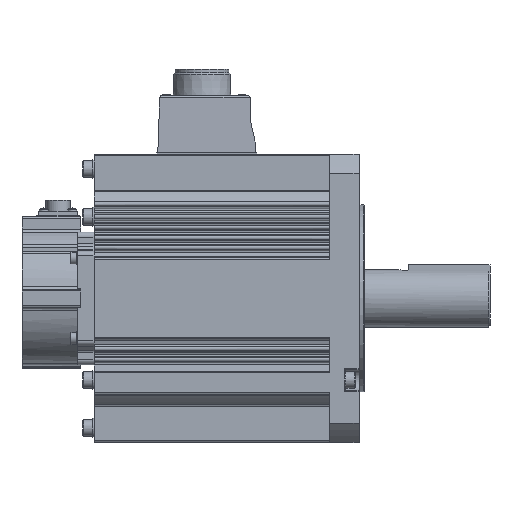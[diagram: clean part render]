
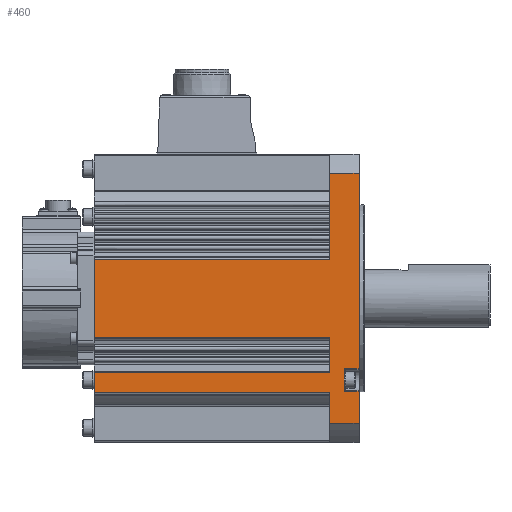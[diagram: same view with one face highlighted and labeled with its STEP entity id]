
A CAD part, top view. The second image highlights one B-rep face of the part: STEP entity #460.
In plain terms, the highlighted planar face has unit normal (0, 0, 1).
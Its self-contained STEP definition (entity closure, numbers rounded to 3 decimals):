
#460 = ADVANCED_FACE( '', ( #1569 ), #1570, .F. );
#1569 = FACE_OUTER_BOUND( '', #3022, .T. );
#1570 = PLANE( '', #3023 );
#3022 = EDGE_LOOP( '', ( #6460, #6461, #6462, #6463, #6464, #6465, #6466, #6467, #6468, #6469, #6470, #6471, #6472, #6473, #6474, #6475, #6476, #6477, #6478, #6479, #6480, #6481, #6482 ) );
#3023 = AXIS2_PLACEMENT_3D( '', #6483, #6484, #6485 );
#6460 = ORIENTED_EDGE( '', *, *, #8193, .F. );
#6461 = ORIENTED_EDGE( '', *, *, #9045, .F. );
#6462 = ORIENTED_EDGE( '', *, *, #8211, .T. );
#6463 = ORIENTED_EDGE( '', *, *, #9057, .F. );
#6464 = ORIENTED_EDGE( '', *, *, #9069, .F. );
#6465 = ORIENTED_EDGE( '', *, *, #9070, .T. );
#6466 = ORIENTED_EDGE( '', *, *, #9071, .T. );
#6467 = ORIENTED_EDGE( '', *, *, #9072, .T. );
#6468 = ORIENTED_EDGE( '', *, *, #9073, .T. );
#6469 = ORIENTED_EDGE( '', *, *, #9074, .T. );
#6470 = ORIENTED_EDGE( '', *, *, #9075, .T. );
#6471 = ORIENTED_EDGE( '', *, *, #9076, .T. );
#6472 = ORIENTED_EDGE( '', *, *, #8888, .T. );
#6473 = ORIENTED_EDGE( '', *, *, #9077, .F. );
#6474 = ORIENTED_EDGE( '', *, *, #9078, .T. );
#6475 = ORIENTED_EDGE( '', *, *, #9079, .T. );
#6476 = ORIENTED_EDGE( '', *, *, #9080, .T. );
#6477 = ORIENTED_EDGE( '', *, *, #9081, .T. );
#6478 = ORIENTED_EDGE( '', *, *, #9036, .T. );
#6479 = ORIENTED_EDGE( '', *, *, #9082, .F. );
#6480 = ORIENTED_EDGE( '', *, *, #9083, .T. );
#6481 = ORIENTED_EDGE( '', *, *, #9084, .T. );
#6482 = ORIENTED_EDGE( '', *, *, #9058, .F. );
#6483 = CARTESIAN_POINT( '', ( -18., 23.917, 88. ) );
#6484 = DIRECTION( '', ( 0., 0., -1. ) );
#6485 = DIRECTION( '', ( -1., 0., 0. ) );
#8193 = EDGE_CURVE( '', #9753, #9749, #9755, .T. );
#8211 = EDGE_CURVE( '', #9782, #9780, #9783, .T. );
#8888 = EDGE_CURVE( '', #10925, #10923, #10926, .T. );
#9036 = EDGE_CURVE( '', #11221, #11219, #11222, .T. );
#9045 = EDGE_CURVE( '', #9782, #9753, #11235, .T. );
#9057 = EDGE_CURVE( '', #11255, #9780, #11257, .T. );
#9058 = EDGE_CURVE( '', #9749, #11258, #11259, .T. );
#9069 = EDGE_CURVE( '', #11276, #11255, #11277, .T. );
#9070 = EDGE_CURVE( '', #11276, #11278, #11279, .T. );
#9071 = EDGE_CURVE( '', #11278, #11280, #11281, .T. );
#9072 = EDGE_CURVE( '', #11280, #11282, #11283, .T. );
#9073 = EDGE_CURVE( '', #11282, #11284, #11285, .T. );
#9074 = EDGE_CURVE( '', #11284, #11286, #11287, .T. );
#9075 = EDGE_CURVE( '', #11286, #11288, #11289, .T. );
#9076 = EDGE_CURVE( '', #11288, #10925, #11290, .T. );
#9077 = EDGE_CURVE( '', #11291, #10923, #11292, .T. );
#9078 = EDGE_CURVE( '', #11291, #11293, #11294, .T. );
#9079 = EDGE_CURVE( '', #11293, #11295, #11296, .T. );
#9080 = EDGE_CURVE( '', #11295, #11297, #11298, .T. );
#9081 = EDGE_CURVE( '', #11297, #11221, #11299, .T. );
#9082 = EDGE_CURVE( '', #11300, #11219, #11301, .T. );
#9083 = EDGE_CURVE( '', #11300, #11302, #11303, .T. );
#9084 = EDGE_CURVE( '', #11302, #11258, #11304, .T. );
#9749 = VERTEX_POINT( '', #12519 );
#9753 = VERTEX_POINT( '', #12524 );
#9755 = LINE( '', #12526, #12527 );
#9780 = VERTEX_POINT( '', #12568 );
#9782 = VERTEX_POINT( '', #12570 );
#9783 = LINE( '', #12571, #12572 );
#10923 = VERTEX_POINT( '', #14146 );
#10925 = VERTEX_POINT( '', #14148 );
#10926 = LINE( '', #14149, #14150 );
#11219 = VERTEX_POINT( '', #14496 );
#11221 = VERTEX_POINT( '', #14498 );
#11222 = LINE( '', #14499, #14500 );
#11235 = LINE( '', #14518, #14519 );
#11255 = VERTEX_POINT( '', #14543 );
#11257 = LINE( '', #14545, #14546 );
#11258 = VERTEX_POINT( '', #14547 );
#11259 = LINE( '', #14548, #14549 );
#11276 = VERTEX_POINT( '', #14574 );
#11277 = LINE( '', #14575, #14576 );
#11278 = VERTEX_POINT( '', #14577 );
#11279 = LINE( '', #14578, #14579 );
#11280 = VERTEX_POINT( '', #14580 );
#11281 = LINE( '', #14581, #14582 );
#11282 = VERTEX_POINT( '', #14583 );
#11283 = LINE( '', #14584, #14585 );
#11284 = VERTEX_POINT( '', #14586 );
#11285 = LINE( '', #14587, #14588 );
#11286 = VERTEX_POINT( '', #14589 );
#11287 = LINE( '', #14590, #14591 );
#11288 = VERTEX_POINT( '', #14592 );
#11289 = LINE( '', #14593, #14594 );
#11290 = LINE( '', #14595, #14596 );
#11291 = VERTEX_POINT( '', #14597 );
#11292 = LINE( '', #14598, #14599 );
#11293 = VERTEX_POINT( '', #14600 );
#11294 = LINE( '', #14601, #14602 );
#11295 = VERTEX_POINT( '', #14603 );
#11296 = LINE( '', #14604, #14605 );
#11297 = VERTEX_POINT( '', #14606 );
#11298 = LINE( '', #14607, #14608 );
#11299 = LINE( '', #14609, #14610 );
#11300 = VERTEX_POINT( '', #14611 );
#11301 = LINE( '', #14612, #14613 );
#11302 = VERTEX_POINT( '', #14614 );
#11303 = LINE( '', #14615, #14616 );
#11304 = LINE( '', #14617, #14618 );
#12519 = CARTESIAN_POINT( '', ( 0., -57., 88. ) );
#12524 = CARTESIAN_POINT( '', ( -9., -57., 88. ) );
#12526 = CARTESIAN_POINT( '', ( -9., -57., 88. ) );
#12527 = VECTOR( '', #15616, 1000. );
#12568 = CARTESIAN_POINT( '', ( 0., -43., 88. ) );
#12570 = CARTESIAN_POINT( '', ( -9., -43., 88. ) );
#12571 = CARTESIAN_POINT( '', ( -9., -43., 88. ) );
#12572 = VECTOR( '', #15647, 1000. );
#14146 = CARTESIAN_POINT( '', ( -162., -23.918, 88. ) );
#14148 = CARTESIAN_POINT( '', ( -162., 23.917, 88. ) );
#14149 = CARTESIAN_POINT( '', ( -162., 23.917, 88. ) );
#14150 = VECTOR( '', #16784, 1000. );
#14496 = CARTESIAN_POINT( '', ( -162., -57.803, 88. ) );
#14498 = CARTESIAN_POINT( '', ( -162., -45.423, 88. ) );
#14499 = CARTESIAN_POINT( '', ( -162., -45.423, 88. ) );
#14500 = VECTOR( '', #17120, 1000. );
#14518 = CARTESIAN_POINT( '', ( -9., 23.917, 88. ) );
#14519 = VECTOR( '', #17135, 1000. );
#14543 = CARTESIAN_POINT( '', ( 0., 76.343, 88. ) );
#14545 = CARTESIAN_POINT( '', ( 0., 76.343, 88. ) );
#14546 = VECTOR( '', #17161, 1000. );
#14547 = CARTESIAN_POINT( '', ( 0., -76.343, 88. ) );
#14548 = CARTESIAN_POINT( '', ( 0., 76.343, 88. ) );
#14549 = VECTOR( '', #17162, 1000. );
#14574 = CARTESIAN_POINT( '', ( -18., 76.343, 88. ) );
#14575 = CARTESIAN_POINT( '', ( -18., 76.343, 88. ) );
#14576 = VECTOR( '', #17177, 1000. );
#14577 = CARTESIAN_POINT( '', ( -18., 57.563, 88. ) );
#14578 = CARTESIAN_POINT( '', ( -18., 76.343, 88. ) );
#14579 = VECTOR( '', #17178, 1000. );
#14580 = CARTESIAN_POINT( '', ( -18., 49.829, 88. ) );
#14581 = CARTESIAN_POINT( '', ( -18., 76.343, 88. ) );
#14582 = VECTOR( '', #17179, 1000. );
#14583 = CARTESIAN_POINT( '', ( -18., 43.349, 88. ) );
#14584 = CARTESIAN_POINT( '', ( -18., 76.343, 88. ) );
#14585 = VECTOR( '', #17180, 1000. );
#14586 = CARTESIAN_POINT( '', ( -18., 36.873, 88. ) );
#14587 = CARTESIAN_POINT( '', ( -18., 76.343, 88. ) );
#14588 = VECTOR( '', #17181, 1000. );
#14589 = CARTESIAN_POINT( '', ( -18., 30.893, 88. ) );
#14590 = CARTESIAN_POINT( '', ( -18., 76.343, 88. ) );
#14591 = VECTOR( '', #17182, 1000. );
#14592 = CARTESIAN_POINT( '', ( -18., 23.917, 88. ) );
#14593 = CARTESIAN_POINT( '', ( -18., 76.343, 88. ) );
#14594 = VECTOR( '', #17183, 1000. );
#14595 = CARTESIAN_POINT( '', ( -18., 23.917, 88. ) );
#14596 = VECTOR( '', #17184, 1000. );
#14597 = CARTESIAN_POINT( '', ( -18., -23.918, 88. ) );
#14598 = CARTESIAN_POINT( '', ( -18., -23.918, 88. ) );
#14599 = VECTOR( '', #17185, 1000. );
#14600 = CARTESIAN_POINT( '', ( -18., -30.895, 88. ) );
#14601 = CARTESIAN_POINT( '', ( -18., 76.343, 88. ) );
#14602 = VECTOR( '', #17186, 1000. );
#14603 = CARTESIAN_POINT( '', ( -18., -37.373, 88. ) );
#14604 = CARTESIAN_POINT( '', ( -18., 76.343, 88. ) );
#14605 = VECTOR( '', #17187, 1000. );
#14606 = CARTESIAN_POINT( '', ( -18., -45.423, 88. ) );
#14607 = CARTESIAN_POINT( '', ( -18., 76.343, 88. ) );
#14608 = VECTOR( '', #17188, 1000. );
#14609 = CARTESIAN_POINT( '', ( -18., -45.423, 88. ) );
#14610 = VECTOR( '', #17189, 1000. );
#14611 = CARTESIAN_POINT( '', ( -18., -57.803, 88. ) );
#14612 = CARTESIAN_POINT( '', ( -18., -57.803, 88. ) );
#14613 = VECTOR( '', #17190, 1000. );
#14614 = CARTESIAN_POINT( '', ( -18., -76.343, 88. ) );
#14615 = CARTESIAN_POINT( '', ( -18., 76.343, 88. ) );
#14616 = VECTOR( '', #17191, 1000. );
#14617 = CARTESIAN_POINT( '', ( -18., -76.343, 88. ) );
#14618 = VECTOR( '', #17192, 1000. );
#15616 = DIRECTION( '', ( 1., 0., 0. ) );
#15647 = DIRECTION( '', ( 1., 0., 0. ) );
#16784 = DIRECTION( '', ( 0., -1., 0. ) );
#17120 = DIRECTION( '', ( 0., -1., 0. ) );
#17135 = DIRECTION( '', ( 0., -1., 0. ) );
#17161 = DIRECTION( '', ( 0., -1., 0. ) );
#17162 = DIRECTION( '', ( 0., -1., 0. ) );
#17177 = DIRECTION( '', ( 1., 0., 0. ) );
#17178 = DIRECTION( '', ( 0., -1., 0. ) );
#17179 = DIRECTION( '', ( 0., -1., 0. ) );
#17180 = DIRECTION( '', ( 0., -1., 0. ) );
#17181 = DIRECTION( '', ( 0., -1., 0. ) );
#17182 = DIRECTION( '', ( 0., -1., 0. ) );
#17183 = DIRECTION( '', ( 0., -1., 0. ) );
#17184 = DIRECTION( '', ( -1., 0., 0. ) );
#17185 = DIRECTION( '', ( -1., 0., 0. ) );
#17186 = DIRECTION( '', ( 0., -1., 0. ) );
#17187 = DIRECTION( '', ( 0., -1., 0. ) );
#17188 = DIRECTION( '', ( 0., -1., 0. ) );
#17189 = DIRECTION( '', ( -1., 0., 0. ) );
#17190 = DIRECTION( '', ( -1., 0., 0. ) );
#17191 = DIRECTION( '', ( 0., -1., 0. ) );
#17192 = DIRECTION( '', ( 1., 0., 0. ) );
